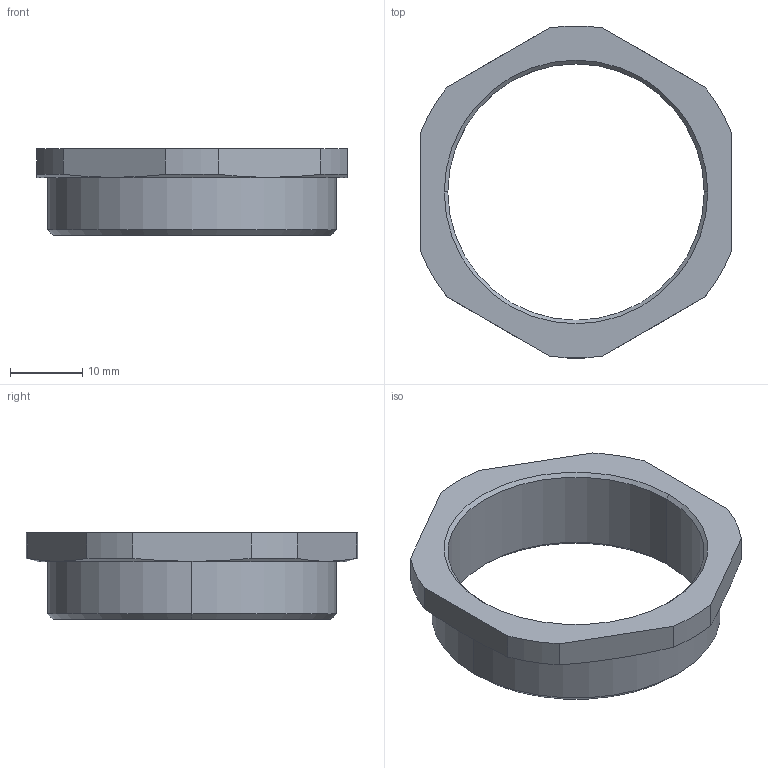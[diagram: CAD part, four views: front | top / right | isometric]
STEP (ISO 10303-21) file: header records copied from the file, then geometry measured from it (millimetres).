
FILE_DESCRIPTION (( 'STEP AP203' ), '1' );
FILE_NAME ('M40PG29-OM.STEP', '2006-05-22T11:48:41', ( ' ' ), ( '' ), 'SwSTEP 2.0', 'SolidWorks 2005278', '' );
FILE_SCHEMA (( 'CONFIG_CONTROL_DESIGN' ));
Length unit declared in the file: millimetre
Products named in the file (1): M40PG29-OM
Bounding box: 43 x 45.93 x 12 mm (x, y, z)
Volume: 4351.3 mm3; surface area: 3909.8 mm2
Topology: 1 solids, 1 shells, 64 faces, 168 edges, 110 vertices
Faces by surface type: plane 46, cylinder 10, cone 8
Entity records: 2045 total; most frequent: CARTESIAN_POINT 371, ORIENTED_EDGE 336, DIRECTION 318, EDGE_CURVE 168, LINE 132, VECTOR 132, VERTEX_POINT 110, AXIS2_PLACEMENT_3D 93
